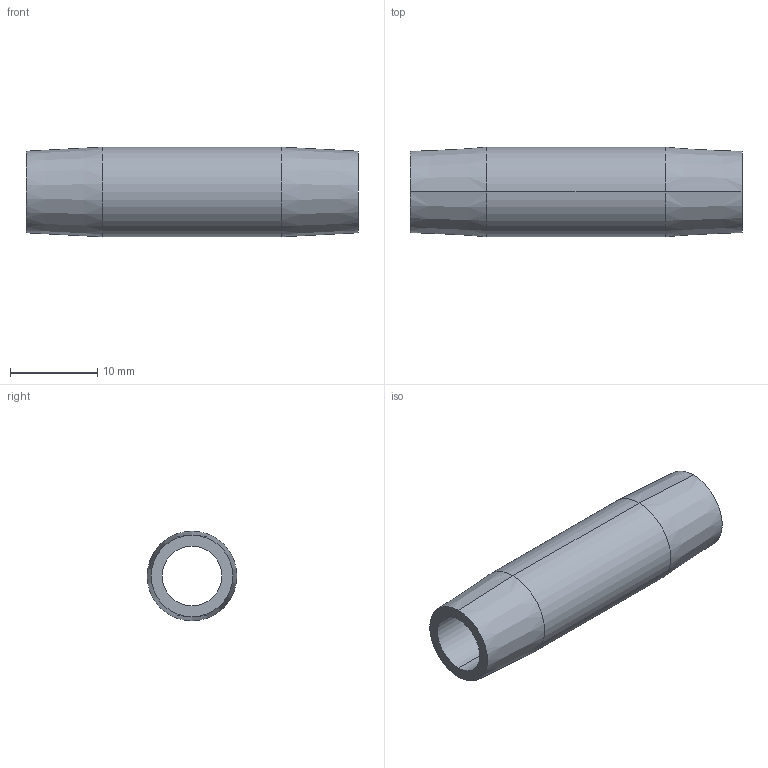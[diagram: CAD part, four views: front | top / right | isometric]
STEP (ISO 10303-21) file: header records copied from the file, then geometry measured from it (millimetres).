
FILE_DESCRIPTION (( 'STEP AP203' ), '1' );
FILE_NAME ('BPN12L1.5.step', '2020-08-19T07:43:35', ( 'Microsoft Corporation' ), ( 'MS' ), 'SwSTEP 2.0', 'SolidWorks 2018', '' );
FILE_SCHEMA (( 'CONFIG_CONTROL_DESIGN' ));
Length unit declared in the file: inch
Products named in the file (1): BPN12L1.5
Bounding box: 38.1 x 10.29 x 10.29 mm (x, y, z)
Volume: 1642.1 mm3; surface area: 2088.7 mm2
Topology: 1 solids, 1 shells, 10 faces, 20 edges, 12 vertices
Faces by surface type: cone 4, cylinder 4, plane 2
Entity records: 347 total; most frequent: DIRECTION 54, CARTESIAN_POINT 43, ORIENTED_EDGE 40, AXIS2_PLACEMENT_3D 23, EDGE_CURVE 20, EDGE_LOOP 12, VERTEX_POINT 12, CIRCLE 12
